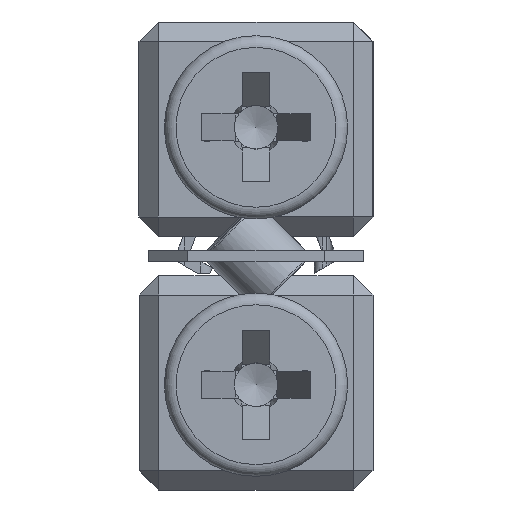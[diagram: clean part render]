
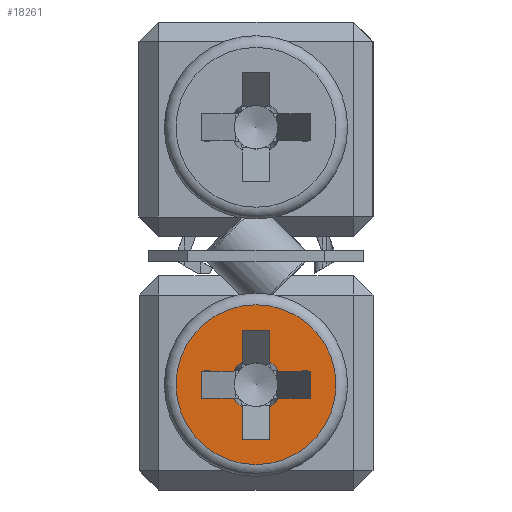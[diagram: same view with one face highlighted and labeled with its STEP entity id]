
A CAD part, left-side view. The second image highlights one B-rep face of the part: STEP entity #18261.
In plain terms, the highlighted planar face has unit normal (-1, 0, 0).
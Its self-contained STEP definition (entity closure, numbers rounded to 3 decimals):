
#103 = VERTEX_POINT ( 'NONE', #5655 ) ;
#120 = EDGE_CURVE ( 'NONE', #23577, #20359, #16563, .T. ) ;
#743 = DIRECTION ( 'NONE',  ( -1., 0., 0. ) ) ;
#1034 = EDGE_CURVE ( 'NONE', #16210, #24968, #16506, .T. ) ;
#1252 = DIRECTION ( 'NONE',  ( 0., -1., 0. ) ) ;
#1355 = EDGE_CURVE ( 'NONE', #16349, #11423, #7078, .T. ) ;
#1418 = LINE ( 'NONE', #24973, #3569 ) ;
#1552 = VECTOR ( 'NONE', #24132, 1000. ) ;
#2002 = CARTESIAN_POINT ( 'NONE',  ( -54., -0.581, 3.05 ) ) ;
#2065 = CARTESIAN_POINT ( 'NONE',  ( -54., -1.4, 2.35 ) ) ;
#2413 = ORIENTED_EDGE ( 'NONE', *, *, #19758, .F. ) ;
#2767 = VERTEX_POINT ( 'NONE', #8044 ) ;
#3569 = VECTOR ( 'NONE', #7510, 1000. ) ;
#3713 = CARTESIAN_POINT ( 'NONE',  ( -54., 0.581, 3.05 ) ) ;
#4185 = EDGE_CURVE ( 'NONE', #16210, #11423, #9508, .T. ) ;
#4361 = DIRECTION ( 'NONE',  ( 0., 0., -1. ) ) ;
#4718 = DIRECTION ( 'NONE',  ( 0., 0., 1. ) ) ;
#4822 = CARTESIAN_POINT ( 'NONE',  ( -54., -1.4, 2.35 ) ) ;
#4927 = CIRCLE ( 'NONE', #21211, 2.05 ) ;
#5117 = CARTESIAN_POINT ( 'NONE',  ( -54., 0., 0.65 ) ) ;
#5207 = CARTESIAN_POINT ( 'NONE',  ( -54., 0., 2.7 ) ) ;
#5213 = EDGE_CURVE ( 'NONE', #15162, #13303, #23511, .T. ) ;
#5228 = DIRECTION ( 'NONE',  ( 0., 1., 0. ) ) ;
#5294 = ORIENTED_EDGE ( 'NONE', *, *, #8490, .F. ) ;
#5295 = VECTOR ( 'NONE', #1252, 1000. ) ;
#5655 = CARTESIAN_POINT ( 'NONE',  ( -54., -0.581, 2.35 ) ) ;
#5815 = FACE_OUTER_BOUND ( 'NONE', #19933, .T. ) ;
#6073 = CARTESIAN_POINT ( 'NONE',  ( -54., -0.35, 4.1 ) ) ;
#6199 = CARTESIAN_POINT ( 'NONE',  ( -54., -1.4, 2.35 ) ) ;
#6666 = ORIENTED_EDGE ( 'NONE', *, *, #27912, .F. ) ;
#6698 = CARTESIAN_POINT ( 'NONE',  ( -54., 0.35, 1.3 ) ) ;
#7078 = LINE ( 'NONE', #4822, #25109 ) ;
#7223 = ORIENTED_EDGE ( 'NONE', *, *, #13361, .F. ) ;
#7510 = DIRECTION ( 'NONE',  ( 0., 0., 1. ) ) ;
#7535 = EDGE_LOOP ( 'NONE', ( #7223, #15402, #5294, #19785, #19167, #25352, #2413, #19396, #6666, #15946, #11728, #11225, #25870, #7872, #14277, #13777 ) ) ;
#7645 = EDGE_CURVE ( 'NONE', #21475, #21475, #4927, .T. ) ;
#7806 = LINE ( 'NONE', #12365, #21887 ) ;
#7872 = ORIENTED_EDGE ( 'NONE', *, *, #4185, .T. ) ;
#8044 = CARTESIAN_POINT ( 'NONE',  ( -54., 0.35, 3.281 ) ) ;
#8082 = CARTESIAN_POINT ( 'NONE',  ( -54., -1.4, 2.35 ) ) ;
#8349 = VERTEX_POINT ( 'NONE', #27992 ) ;
#8490 = EDGE_CURVE ( 'NONE', #13230, #20359, #18051, .T. ) ;
#8628 = EDGE_CURVE ( 'NONE', #2767, #25707, #1418, .T. ) ;
#8754 = CARTESIAN_POINT ( 'NONE',  ( -54., 0.35, 1.3 ) ) ;
#8912 = AXIS2_PLACEMENT_3D ( 'NONE', #27005, #22759, #13850 ) ;
#9398 = DIRECTION ( 'NONE',  ( 0., -1., 0. ) ) ;
#9508 = LINE ( 'NONE', #22291, #5295 ) ;
#9650 = FACE_BOUND ( 'NONE', #7535, .T. ) ;
#9927 = VECTOR ( 'NONE', #21441, 1000. ) ;
#10329 = CARTESIAN_POINT ( 'NONE',  ( -54., -0.35, 4.1 ) ) ;
#10591 = CARTESIAN_POINT ( 'NONE',  ( -54., -0.35, 4.1 ) ) ;
#10930 = EDGE_CURVE ( 'NONE', #13200, #25707, #14030, .T. ) ;
#11225 = ORIENTED_EDGE ( 'NONE', *, *, #18717, .T. ) ;
#11423 = VERTEX_POINT ( 'NONE', #18646 ) ;
#11710 = VECTOR ( 'NONE', #4361, 1000. ) ;
#11728 = ORIENTED_EDGE ( 'NONE', *, *, #10930, .F. ) ;
#12365 = CARTESIAN_POINT ( 'NONE',  ( -54., 0.35, 1.3 ) ) ;
#13200 = VERTEX_POINT ( 'NONE', #6073 ) ;
#13230 = VERTEX_POINT ( 'NONE', #8754 ) ;
#13303 = VERTEX_POINT ( 'NONE', #18659 ) ;
#13361 = EDGE_CURVE ( 'NONE', #23577, #103, #15324, .T. ) ;
#13499 = CARTESIAN_POINT ( 'NONE',  ( -54., -0.35, 2.119 ) ) ;
#13777 = ORIENTED_EDGE ( 'NONE', *, *, #19739, .T. ) ;
#13850 = DIRECTION ( 'NONE',  ( 0., 0., 1. ) ) ;
#13932 = CARTESIAN_POINT ( 'NONE',  ( -54., 0., 2.7 ) ) ;
#14030 = LINE ( 'NONE', #22405, #15896 ) ;
#14277 = ORIENTED_EDGE ( 'NONE', *, *, #1355, .F. ) ;
#14427 = CARTESIAN_POINT ( 'NONE',  ( -54., -0.35, 1.3 ) ) ;
#14451 = DIRECTION ( 'NONE',  ( 0., 0., -1. ) ) ;
#14764 = CARTESIAN_POINT ( 'NONE',  ( -54., 1.4, 3.05 ) ) ;
#15162 = VERTEX_POINT ( 'NONE', #26711 ) ;
#15324 = CIRCLE ( 'NONE', #26199, 0.678 ) ;
#15402 = ORIENTED_EDGE ( 'NONE', *, *, #120, .T. ) ;
#15487 = CARTESIAN_POINT ( 'NONE',  ( -54., 1.4, 3.05 ) ) ;
#15519 = CIRCLE ( 'NONE', #19591, 0.678 ) ;
#15896 = VECTOR ( 'NONE', #5228, 1000. ) ;
#15946 = ORIENTED_EDGE ( 'NONE', *, *, #8628, .T. ) ;
#16114 = DIRECTION ( 'NONE',  ( -1., 0., 0. ) ) ;
#16210 = VERTEX_POINT ( 'NONE', #2002 ) ;
#16349 = VERTEX_POINT ( 'NONE', #2065 ) ;
#16506 = CIRCLE ( 'NONE', #27382, 0.678 ) ;
#16563 = LINE ( 'NONE', #10329, #21934 ) ;
#16890 = DIRECTION ( 'NONE',  ( 0., 1., 0. ) ) ;
#16933 = CARTESIAN_POINT ( 'NONE',  ( -54., 0., 2.7 ) ) ;
#17030 = LINE ( 'NONE', #8082, #18529 ) ;
#17057 = VERTEX_POINT ( 'NONE', #3713 ) ;
#17609 = LINE ( 'NONE', #15487, #1552 ) ;
#17610 = VECTOR ( 'NONE', #9398, 1000. ) ;
#18051 = LINE ( 'NONE', #6698, #17610 ) ;
#18261 = ADVANCED_FACE ( 'NONE', ( #5815, #9650 ), #20570, .F. ) ;
#18296 = DIRECTION ( 'NONE',  ( 0., 0., -1. ) ) ;
#18430 = CARTESIAN_POINT ( 'NONE',  ( -54., 2.35, 2.7 ) ) ;
#18529 = VECTOR ( 'NONE', #16890, 1000. ) ;
#18646 = CARTESIAN_POINT ( 'NONE',  ( -54., -1.4, 3.05 ) ) ;
#18659 = CARTESIAN_POINT ( 'NONE',  ( -54., 1.4, 2.35 ) ) ;
#18717 = EDGE_CURVE ( 'NONE', #13200, #24968, #19246, .T. ) ;
#19167 = ORIENTED_EDGE ( 'NONE', *, *, #25561, .F. ) ;
#19246 = LINE ( 'NONE', #10591, #11710 ) ;
#19396 = ORIENTED_EDGE ( 'NONE', *, *, #22019, .T. ) ;
#19591 = AXIS2_PLACEMENT_3D ( 'NONE', #16933, #23466, #27867 ) ;
#19739 = EDGE_CURVE ( 'NONE', #16349, #103, #17030, .T. ) ;
#19758 = EDGE_CURVE ( 'NONE', #25189, #13303, #23416, .T. ) ;
#19785 = ORIENTED_EDGE ( 'NONE', *, *, #23387, .T. ) ;
#19933 = EDGE_LOOP ( 'NONE', ( #25262 ) ) ;
#20359 = VERTEX_POINT ( 'NONE', #14427 ) ;
#20525 = DIRECTION ( 'NONE',  ( 0., 0., 1. ) ) ;
#20570 = PLANE ( 'NONE',  #21191 ) ;
#20709 = DIRECTION ( 'NONE',  ( 1., 0., 0. ) ) ;
#20721 = VECTOR ( 'NONE', #27774, 1000. ) ;
#21094 = CARTESIAN_POINT ( 'NONE',  ( -54., 0., 2.7 ) ) ;
#21191 = AXIS2_PLACEMENT_3D ( 'NONE', #18430, #20709, #18296 ) ;
#21211 = AXIS2_PLACEMENT_3D ( 'NONE', #21094, #27632, #25480 ) ;
#21441 = DIRECTION ( 'NONE',  ( 0., 0., -1. ) ) ;
#21475 = VERTEX_POINT ( 'NONE', #5117 ) ;
#21887 = VECTOR ( 'NONE', #27109, 1000. ) ;
#21934 = VECTOR ( 'NONE', #14451, 1000. ) ;
#22019 = EDGE_CURVE ( 'NONE', #25189, #17057, #17609, .T. ) ;
#22291 = CARTESIAN_POINT ( 'NONE',  ( -54., 1.4, 3.05 ) ) ;
#22405 = CARTESIAN_POINT ( 'NONE',  ( -54., -0.35, 4.1 ) ) ;
#22504 = CARTESIAN_POINT ( 'NONE',  ( -54., 1.4, 3.05 ) ) ;
#22549 = DIRECTION ( 'NONE',  ( 0., 0., 1. ) ) ;
#22759 = DIRECTION ( 'NONE',  ( -1., 0., 0. ) ) ;
#23387 = EDGE_CURVE ( 'NONE', #13230, #8349, #7806, .T. ) ;
#23416 = LINE ( 'NONE', #14764, #9927 ) ;
#23466 = DIRECTION ( 'NONE',  ( -1., 0., 0. ) ) ;
#23511 = LINE ( 'NONE', #6199, #20721 ) ;
#23577 = VERTEX_POINT ( 'NONE', #13499 ) ;
#24132 = DIRECTION ( 'NONE',  ( 0., -1., 0. ) ) ;
#24968 = VERTEX_POINT ( 'NONE', #25194 ) ;
#24973 = CARTESIAN_POINT ( 'NONE',  ( -54., 0.35, 1.3 ) ) ;
#25109 = VECTOR ( 'NONE', #22549, 1000. ) ;
#25189 = VERTEX_POINT ( 'NONE', #22504 ) ;
#25194 = CARTESIAN_POINT ( 'NONE',  ( -54., -0.35, 3.281 ) ) ;
#25262 = ORIENTED_EDGE ( 'NONE', *, *, #7645, .T. ) ;
#25352 = ORIENTED_EDGE ( 'NONE', *, *, #5213, .T. ) ;
#25480 = DIRECTION ( 'NONE',  ( 0., 0., -1. ) ) ;
#25561 = EDGE_CURVE ( 'NONE', #15162, #8349, #15519, .T. ) ;
#25707 = VERTEX_POINT ( 'NONE', #27679 ) ;
#25870 = ORIENTED_EDGE ( 'NONE', *, *, #1034, .F. ) ;
#26199 = AXIS2_PLACEMENT_3D ( 'NONE', #5207, #16114, #20525 ) ;
#26711 = CARTESIAN_POINT ( 'NONE',  ( -54., 0.581, 2.35 ) ) ;
#27005 = CARTESIAN_POINT ( 'NONE',  ( -54., 0., 2.7 ) ) ;
#27028 = CIRCLE ( 'NONE', #8912, 0.678 ) ;
#27109 = DIRECTION ( 'NONE',  ( 0., 0., 1. ) ) ;
#27382 = AXIS2_PLACEMENT_3D ( 'NONE', #13932, #743, #4718 ) ;
#27632 = DIRECTION ( 'NONE',  ( -1., 0., 0. ) ) ;
#27679 = CARTESIAN_POINT ( 'NONE',  ( -54., 0.35, 4.1 ) ) ;
#27774 = DIRECTION ( 'NONE',  ( 0., 1., 0. ) ) ;
#27867 = DIRECTION ( 'NONE',  ( 0., 0., 1. ) ) ;
#27912 = EDGE_CURVE ( 'NONE', #2767, #17057, #27028, .T. ) ;
#27992 = CARTESIAN_POINT ( 'NONE',  ( -54., 0.35, 2.119 ) ) ;
